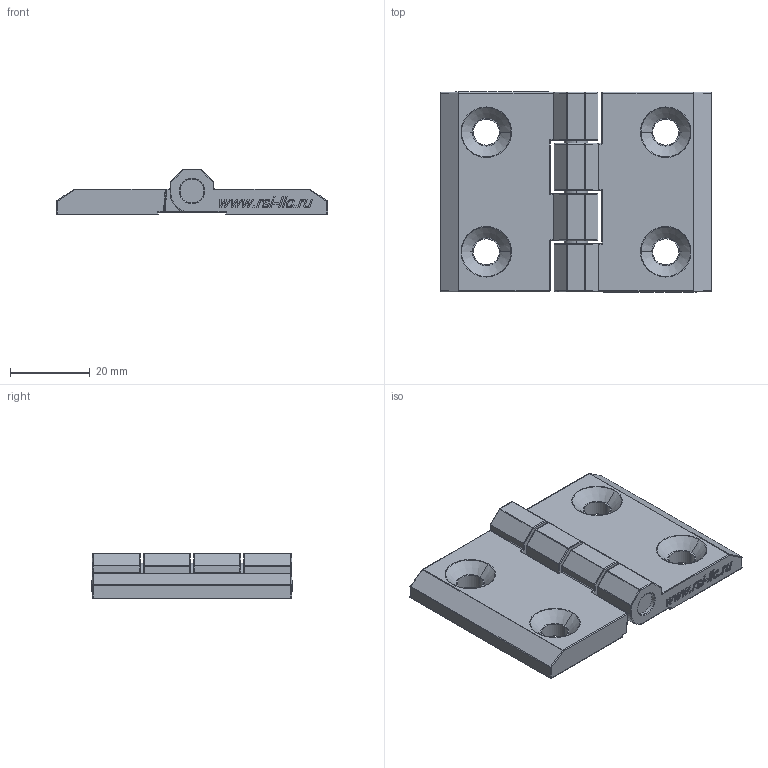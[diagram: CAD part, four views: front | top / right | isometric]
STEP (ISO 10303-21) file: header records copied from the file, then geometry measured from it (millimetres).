
FILE_DESCRIPTION (( 'STEP AP214' ), '1' );
FILE_NAME ('3027.STEP', '2020-10-09T14:02:11', ( '' ), ( '' ), 'SwSTEP 2.0', 'SolidWorks 2018', '' );
FILE_SCHEMA (( 'AUTOMOTIVE_DESIGN' ));
Length unit declared in the file: millimetre
Products named in the file (3): 3027-03; 3027-01; 3027
Assembly tree (3 placements, depth 2):
  3027
    3027-01  x2
    3027-03
Bounding box: 68 x 50.2 x 11.5 mm (x, y, z)
Volume: 15476.3 mm3; surface area: 12675.9 mm2
Topology: 3 solids, 3 shells, 878 faces, 2140 edges, 1216 vertices
Faces by surface type: plane 326, cylinder 232, bspline 120, torus 92, sphere 92, cone 16
Entity records: 16593 total; most frequent: CARTESIAN_POINT 4976, ORIENTED_EDGE 2054, DIRECTION 2005, EDGE_CURVE 1027, AXIS2_PLACEMENT_3D 715, VERTEX_POINT 610, VECTOR 575, LINE 575
